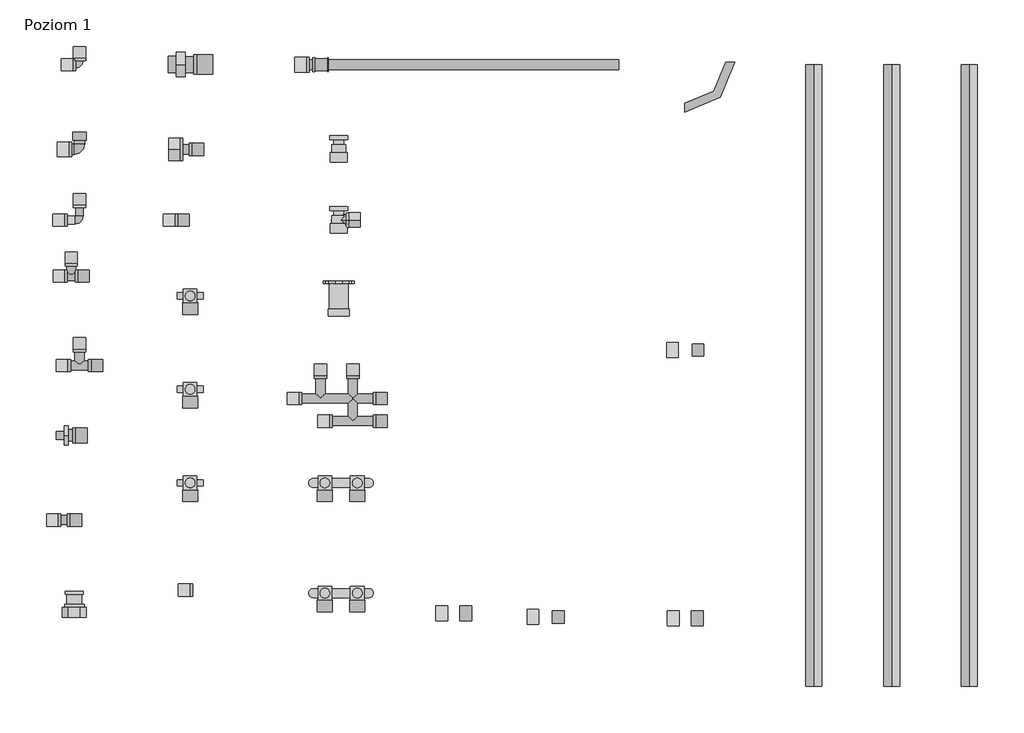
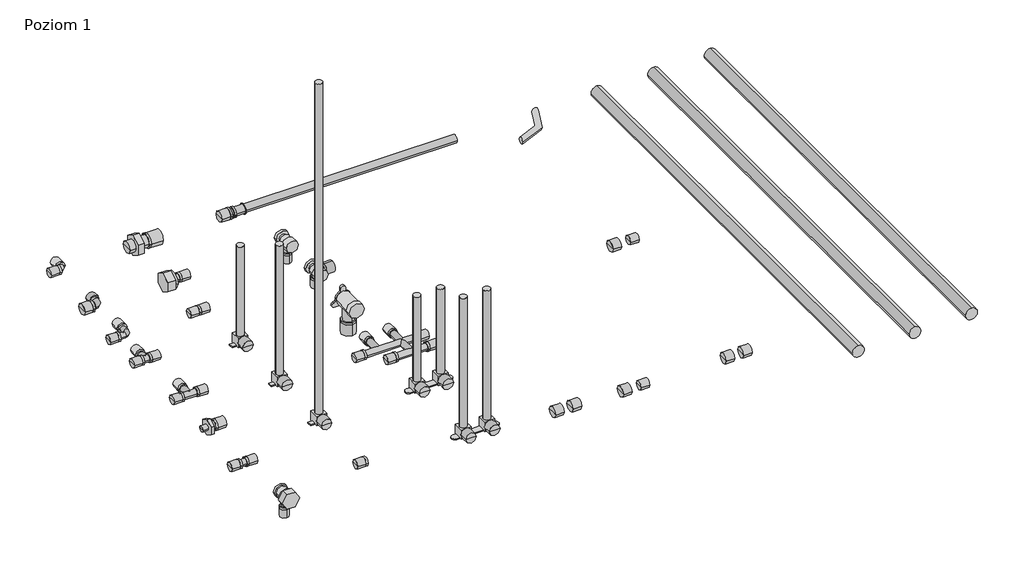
# One storey, incomplete: 69 pipe fittings, 3 pipe segments.
"""IFC4 building model written with IfcOpenShell, lengths in millimetres."""

from ifc_helpers import new_model, si_unit, point, frame, frame_2d, origin, place, context, project, spatial, circle_curve, trimmed, segment, composite_curve, outline, extrude, transform, mapped, element, save
from components import pipe_fitting_30f2cc5d, pipe_fitting_92fd806f, pipe_fitting_f02bf57f, pipe_fitting_e054df29, pipe_fitting_16a170cd, pipe_fitting_e9b668a0, pipe_fitting_484136c4, pipe_fitting_4f28ddf9, pipe_fitting_abb25506, pipe_fitting_5653471c, pipe_fitting_e0515772, pipe_fitting_b1d8f7a5, pipe_fitting_50b3f37e, pipe_fitting_8946a435, pipe_fitting_85a90597, pipe_fitting_3c72cdea, pipe_fitting_ba566464, pipe_fitting_97bea91d, pipe_fitting_ec76dbcf, pipe_fitting_50392070, pipe_fitting_5e96aa70, pipe_fitting_4cc90f57, pipe_fitting_cd0dfacf, pipe_fitting_8a5fa116, pipe_fitting_3549ee6d, pipe_fitting_8a7176bf, pipe_fitting_c6b296b3

model = new_model("IFC4")

# Units and contexts
model_context = context("Model", 3, world=origin())
ifc_project = project(units=[si_unit("LENGTHUNIT", "METRE", prefix="MILLI")], contexts=[model_context])

# Site, building, storey
site = spatial("IfcSite", under=ifc_project)
building = spatial("IfcBuilding", under=site)
storey = spatial("IfcBuildingStorey", under=building, Name="Poziom 1", Elevation=0.0)

# Pipe fittings
placement = place(None, origin())
pipe_fitting_shape = pipe_fitting_30f2cc5d(model_context)
element("IfcPipeFitting", 1, ObjectType="KAN-therm Push rura elastyczna : rura wielowarstwowa PE-Xc/Al/PE-HD Platinum", at=placement, inside=storey, context=model_context, shape_type="MappedRepresentation", body=[
    mapped(pipe_fitting_shape, transform((-9165.9586666, 537.3476058, 0.0), x_axis=(1.0, 0.0, 0.0), y_axis=(0.0, 1.0, 0.0), z_axis=(0.0, 0.0, 1.0))),
])
pipe_fitting_2_shape = pipe_fitting_92fd806f(model_context)
element("IfcPipeFitting", 2, ObjectType="KAN-therm Push trójnik mosężny mijankowy : KAN-therm Push trójnik mosężny mijankowy", at=placement, inside=storey, context=model_context, shape_type="MappedRepresentation", body=[
    mapped(pipe_fitting_2_shape, transform((-9748.2591931, 52.9848725, 0.0), x_axis=(1.0, 0.0, 0.0), y_axis=(0.0, 1.0, 0.0), z_axis=(0.0, 0.0, 1.0))),
])
pipe_fitting_3_shape = pipe_fitting_f02bf57f(model_context)
element("IfcPipeFitting", 3, ObjectType="KAN-therm Push trójnik mosiężny : KAN-therm Push trójnik mosiężny", at=placement, inside=storey, context=model_context, shape_type="MappedRepresentation", body=[
    mapped(pipe_fitting_3_shape, transform((-10183.087042, 276.8922924, 0.0), x_axis=(1.0, 0.0, 0.0), y_axis=(0.0, 1.0, 0.0), z_axis=(0.0, 0.0, 1.0))),
])
pipe_fitting_4_shape = pipe_fitting_e054df29(model_context)
element("IfcPipeFitting", 4, ObjectType="KAN-therm Push trójnik PPSU : KAN-therm Push trójnik PPSU", at=placement, inside=storey, context=model_context, shape_type="MappedRepresentation", body=[
    mapped(pipe_fitting_4_shape, transform((-10170.260069, 138.7966678, 0.0), x_axis=(1.0, 0.0, 0.0), y_axis=(0.0, 1.0, 0.0), z_axis=(0.0, 0.0, 1.0))),
])
pipe_fitting_5_shape = pipe_fitting_16a170cd(model_context)
element("IfcPipeFitting", 5, ObjectType="KAN-therm Push element połaczeniowy do grzejnika : KAN-therm Push element połaczeniowy do grzejnika", at=placement, inside=storey, context=model_context, shape_type="MappedRepresentation", body=[
    mapped(pipe_fitting_5_shape, transform((-9814.6475579, 603.5231041, 0.0), x_axis=(1.0, 0.0, 0.0), y_axis=(0.0, 1.0, 0.0), z_axis=(0.0, 0.0, 1.0))),
])
pipe_fitting_6_shape = pipe_fitting_e9b668a0(model_context)
element("IfcPipeFitting", 6, ObjectType="KAN-therm Push kolano mosiężne z rurą Cu15 ze wspornikiem L=210 : KAN-therm Push kolano mosiężne z rurą Cu15 ze wspornikiem L=210", at=placement, inside=storey, context=model_context, shape_type="MappedRepresentation", body=[
    mapped(pipe_fitting_6_shape, transform((-9999.5567689, 246.2352095, 0.0), x_axis=(1.0, 0.0, 0.0), y_axis=(0.0, 1.0, 0.0), z_axis=(0.0, 0.0, 1.0))),
])
pipe_fitting_7_shape = pipe_fitting_484136c4(model_context)
element("IfcPipeFitting", 7, ObjectType="KAN-therm Push kolano mosiężne z rurą Cu15 ze wspornikiem L=300 : KAN-therm Push kolano mosiężne z rurą Cu15 ze wspornikiem L=300", at=placement, inside=storey, context=model_context, shape_type="MappedRepresentation", body=[
    mapped(pipe_fitting_7_shape, transform((-9999.5567689, 102.0144307, 0.0), x_axis=(1.0, 0.0, 0.0), y_axis=(0.0, 1.0, 0.0), z_axis=(0.0, 0.0, 1.0))),
])
pipe_fitting_8_shape = pipe_fitting_4f28ddf9(model_context)
element("IfcPipeFitting", 8, ObjectType="KAN-therm Push kolano mosiężne z rurą Cu15 ze wspornikiem L=750 : KAN-therm Push kolano mosiężne z rurą Cu15 ze wspornikiem L=750", at=placement, inside=storey, context=model_context, shape_type="MappedRepresentation", body=[
    mapped(pipe_fitting_8_shape, transform((-9999.5567689, -42.4960973, 0.0), x_axis=(1.0, 0.0, 0.0), y_axis=(0.0, 1.0, 0.0), z_axis=(0.0, 0.0, 1.0))),
])
pipe_fitting_9_shape = pipe_fitting_abb25506(model_context)
element("IfcPipeFitting", 9, ObjectType="KAN-therm Push kolano mosiężne zespolone ze wspornikiem L=200 : KAN-therm Push kolano mosiężne zespolone ze wspornikiem L=200", at=placement, inside=storey, context=model_context, shape_type="MappedRepresentation", body=[
    mapped(pipe_fitting_9_shape, transform((-9791.5339065, -42.4960973, 0.0), x_axis=(1.0, 0.0, 0.0), y_axis=(0.0, 1.0, 0.0), z_axis=(0.0, 0.0, 1.0))),
])
pipe_fitting_10_shape = pipe_fitting_5653471c(model_context)
element("IfcPipeFitting", 10, ObjectType="KAN-therm Push kolano mosiężne zespolone ze wspornikiem L=300 : KAN-therm Push kolano mosiężne zespolone ze wspornikiem L=300", at=placement, inside=storey, context=model_context, shape_type="MappedRepresentation", body=[
    mapped(pipe_fitting_10_shape, transform((-9791.5339065, -212.7256633, 0.0), x_axis=(1.0, 0.0, 0.0), y_axis=(0.0, 1.0, 0.0), z_axis=(0.0, 0.0, 1.0))),
])
pipe_fitting_11_shape = pipe_fitting_e0515772(model_context)
element("IfcPipeFitting", 11, ObjectType="KAN-therm Push kolano mosiężne : KAN-therm Push kolano mosiężne", at=placement, inside=storey, context=model_context, shape_type="MappedRepresentation", body=[
    mapped(pipe_fitting_11_shape, transform((-10170.260069, 603.5231041, 0.0), x_axis=(1.0, 0.0, 0.0), y_axis=(0.0, 1.0, 0.0), z_axis=(0.0, 0.0, 1.0))),
])
pipe_fitting_12_shape = pipe_fitting_b1d8f7a5(model_context)
element("IfcPipeFitting", 12, ObjectType="KAN-therm Push kolano PPSU : KAN-therm Push kolano PPSU", at=placement, inside=storey, context=model_context, shape_type="MappedRepresentation", body=[
    mapped(pipe_fitting_12_shape, transform((-10170.260069, 363.3764886, 0.0), x_axis=(1.0, 0.0, 0.0), y_axis=(0.0, 1.0, 0.0), z_axis=(0.0, 0.0, 1.0))),
])
pipe_fitting_13_shape = pipe_fitting_50b3f37e(model_context)
element("IfcPipeFitting", 13, ObjectType="KAN-therm Push korek mosiężny : KAN-therm Push korek mosiężny", at=placement, inside=storey, context=model_context, shape_type="MappedRepresentation", body=[
    mapped(pipe_fitting_13_shape, transform((-9999.5567689, -208.0896617, 0.0), x_axis=(1.0, 0.0, 0.0), y_axis=(0.0, 1.0, 0.0), z_axis=(0.0, 0.0, 1.0))),
])
pipe_fitting_14_shape = pipe_fitting_8946a435(model_context)
element("IfcPipeFitting", 14, ObjectType="KAN-therm Push łącznik mosiężny : KAN-therm Push łącznik mosiężny", at=placement, inside=storey, context=model_context, shape_type="MappedRepresentation", body=[
    mapped(pipe_fitting_14_shape, transform((-10020.6257305, 363.3764886, 0.0), x_axis=(1.0, 0.0, 0.0), y_axis=(0.0, 1.0, 0.0), z_axis=(0.0, 0.0, 1.0))),
])
pipe_fitting_15_shape = pipe_fitting_85a90597(model_context)
element("IfcPipeFitting", 15, ObjectType="KAN-therm Push łącznik PPSU : KAN-therm Push łącznik PPSU", at=placement, inside=storey, context=model_context, shape_type="MappedRepresentation", body=[
    mapped(pipe_fitting_15_shape, transform((-10194.12227, -99.768868, 0.0), x_axis=(1.0, 0.0, 0.0), y_axis=(0.0, 1.0, 0.0), z_axis=(0.0, 0.0, 1.0))),
])
pipe_fitting_16_shape = pipe_fitting_3c72cdea(model_context)
element("IfcPipeFitting", 16, ObjectType="KAN-therm Push podejście do baterii PPSU : KAN-therm Push podejście do baterii PPSU", at=placement, inside=storey, context=model_context, shape_type="MappedRepresentation", body=[
    mapped(pipe_fitting_16_shape, transform((-10178.194971, -224.7552829, 0.0), x_axis=(1.0, 0.0, 0.0), y_axis=(0.0, 1.0, 0.0), z_axis=(0.0, 0.0, 1.0))),
])
pipe_fitting_17_shape = pipe_fitting_ba566464(model_context)
element("IfcPipeFitting", 17, ObjectType="KAN-therm Push podejście mosiężne do baterii : KAN-therm Push podejście mosiężne do baterii", at=placement, inside=storey, context=model_context, shape_type="MappedRepresentation", body=[
    mapped(pipe_fitting_17_shape, transform((-9770.0834965, 472.6642779, 0.0), x_axis=(1.0, 0.0, 0.0), y_axis=(0.0, 1.0, 0.0), z_axis=(0.0, 0.0, 1.0))),
])
pipe_fitting_18_shape = pipe_fitting_97bea91d(model_context)
element("IfcPipeFitting", 18, ObjectType="KAN-therm Push podejście mosiężne kątowe do baterii : KAN-therm Push podejście mosiężne kątowe do baterii", at=placement, inside=storey, context=model_context, shape_type="MappedRepresentation", body=[
    mapped(pipe_fitting_18_shape, transform((-9770.0834965, 363.3764886, 0.0), x_axis=(1.0, 0.0, 0.0), y_axis=(0.0, 1.0, 0.0), z_axis=(0.0, 0.0, 1.0))),
])
pipe_fitting_19_shape = pipe_fitting_ec76dbcf(model_context)
element("IfcPipeFitting", 19, ObjectType="KAN-therm Push podejście mosiężne z uszami do baterii : KAN-therm Push podejście mosiężne z uszami do baterii", at=placement, inside=storey, context=model_context, shape_type="MappedRepresentation", body=[
    mapped(pipe_fitting_19_shape, transform((-9770.0834965, 246.2352095, 0.0), x_axis=(1.0, 0.0, 0.0), y_axis=(0.0, 1.0, 0.0), z_axis=(0.0, 0.0, 1.0))),
])
pipe_fitting_20_shape = pipe_fitting_50392070(model_context)
element("IfcPipeFitting", 20, ObjectType="KAN-therm Push mosiężny pierścień nasuwany : KAN-therm Push mosiężny pierścień nasuwany", at=placement, inside=storey, context=model_context, shape_type="MappedRepresentation", body=[
    mapped(pipe_fitting_20_shape, transform((-10180.260069, 603.5231041, 0.0), x_axis=(-1.0000000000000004, 0.0, 0.0), y_axis=(0.0, -1.0000000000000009, 0.0), z_axis=(0.0, 0.0, 1.0000000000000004))),
])
element("IfcPipeFitting", 21, ObjectType="KAN-therm Push mosiężny pierścień nasuwany : KAN-therm Push mosiężny pierścień nasuwany", at=placement, inside=storey, context=model_context, shape_type="MappedRepresentation", body=[
    mapped(pipe_fitting_20_shape, transform((-10170.260069, 613.5231041, 0.0), x_axis=(0.0, 1.0000000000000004, 0.0), y_axis=(-1.0000000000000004, 0.0, 0.0), z_axis=(0.0, 0.0, 1.0))),
])
element("IfcPipeFitting", 22, ObjectType="KAN-therm Push mosiężny pierścień nasuwany : KAN-therm Push mosiężny pierścień nasuwany", at=placement, inside=storey, context=model_context, shape_type="MappedRepresentation", body=[
    mapped(pipe_fitting_20_shape, transform((-10193.260069, 363.3764886, 0.0), x_axis=(-1.0000000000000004, 0.0, 0.0), y_axis=(0.0, -1.0000000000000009, 0.0), z_axis=(0.0, 0.0, 1.0000000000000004))),
])
element("IfcPipeFitting", 23, ObjectType="KAN-therm Push mosiężny pierścień nasuwany : KAN-therm Push mosiężny pierścień nasuwany", at=placement, inside=storey, context=model_context, shape_type="MappedRepresentation", body=[
    mapped(pipe_fitting_20_shape, transform((-10170.260069, 386.3764886, 0.0), x_axis=(0.0, 1.0000000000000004, 0.0), y_axis=(-1.0000000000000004, 0.0, 0.0), z_axis=(0.0, 0.0, 1.0))),
])
element("IfcPipeFitting", 24, ObjectType="KAN-therm Push mosiężny pierścień nasuwany : KAN-therm Push mosiężny pierścień nasuwany", at=placement, inside=storey, context=model_context, shape_type="MappedRepresentation", body=[
    mapped(pipe_fitting_20_shape, transform((-10173.087042, 276.8922924, 0.0), x_axis=(1.0, 0.0, 0.0), y_axis=(0.0, 1.0, 0.0), z_axis=(0.0, 0.0, 1.0))),
])
element("IfcPipeFitting", 25, ObjectType="KAN-therm Push mosiężny pierścień nasuwany : KAN-therm Push mosiężny pierścień nasuwany", at=placement, inside=storey, context=model_context, shape_type="MappedRepresentation", body=[
    mapped(pipe_fitting_20_shape, transform((-10183.087042, 296.3922924, 0.0), x_axis=(0.0, 1.0000000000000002, 0.0), y_axis=(-1.0000000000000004, 0.0, 0.0), z_axis=(0.0, 0.0, 1.0000000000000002))),
])
element("IfcPipeFitting", 26, ObjectType="KAN-therm Push mosiężny pierścień nasuwany : KAN-therm Push mosiężny pierścień nasuwany", at=placement, inside=storey, context=model_context, shape_type="MappedRepresentation", body=[
    mapped(pipe_fitting_20_shape, transform((-10193.087042, 276.8922924, 0.0), x_axis=(-1.0000000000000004, 0.0, 0.0), y_axis=(0.0, -1.0000000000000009, 0.0), z_axis=(0.0, 0.0, 1.0000000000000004))),
])
element("IfcPipeFitting", 27, ObjectType="KAN-therm Push mosiężny pierścień nasuwany : KAN-therm Push mosiężny pierścień nasuwany", at=placement, inside=storey, context=model_context, shape_type="MappedRepresentation", body=[
    mapped(pipe_fitting_20_shape, transform((-10152.510069, 138.7966678, 0.0), x_axis=(1.0, 0.0, 0.0), y_axis=(0.0, 1.0, 0.0), z_axis=(0.0, 0.0, 1.0))),
])
element("IfcPipeFitting", 28, ObjectType="KAN-therm Push mosiężny pierścień nasuwany : KAN-therm Push mosiężny pierścień nasuwany", at=placement, inside=storey, context=model_context, shape_type="MappedRepresentation", body=[
    mapped(pipe_fitting_20_shape, transform((-10170.260069, 163.7966678, 0.0), x_axis=(0.0, 1.0, 0.0), y_axis=(-1.0, 0.0, 0.0), z_axis=(0.0, 0.0, 1.0))),
])
element("IfcPipeFitting", 29, ObjectType="KAN-therm Push mosiężny pierścień nasuwany : KAN-therm Push mosiężny pierścień nasuwany", at=placement, inside=storey, context=model_context, shape_type="MappedRepresentation", body=[
    mapped(pipe_fitting_20_shape, transform((-10188.010069, 138.7966678, 0.0), x_axis=(-0.9999999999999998, 0.0, 0.0), y_axis=(0.0, -0.9999999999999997, 0.0), z_axis=(0.0, 0.0, 0.9999999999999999))),
])
element("IfcPipeFitting", 30, ObjectType="KAN-therm Push mosiężny pierścień nasuwany : KAN-therm Push mosiężny pierścień nasuwany", at=placement, inside=storey, context=model_context, shape_type="MappedRepresentation", body=[
    mapped(pipe_fitting_20_shape, transform((-10018.6257305, 363.3764886, 0.0), x_axis=(1.0, 0.0, 0.0), y_axis=(0.0, 1.0, 0.0), z_axis=(0.0, 0.0, 1.0))),
])
element("IfcPipeFitting", 31, ObjectType="KAN-therm Push mosiężny pierścień nasuwany : KAN-therm Push mosiężny pierścień nasuwany", at=placement, inside=storey, context=model_context, shape_type="MappedRepresentation", body=[
    mapped(pipe_fitting_20_shape, transform((-10185.12227, -99.768868, 0.0), x_axis=(1.0, 0.0, 0.0), y_axis=(0.0, 1.0, 0.0), z_axis=(0.0, 0.0, 1.0))),
])
element("IfcPipeFitting", 32, ObjectType="KAN-therm Push mosiężny pierścień nasuwany : KAN-therm Push mosiężny pierścień nasuwany", at=placement, inside=storey, context=model_context, shape_type="MappedRepresentation", body=[
    mapped(pipe_fitting_20_shape, transform((-10203.12227, -99.768868, 0.0), x_axis=(-1.0000000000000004, 0.0, 0.0), y_axis=(0.0, -1.0000000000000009, 0.0), z_axis=(0.0, 0.0, 1.0000000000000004))),
])
element("IfcPipeFitting", 33, ObjectType="KAN-therm Push mosiężny pierścień nasuwany : KAN-therm Push mosiężny pierścień nasuwany", at=placement, inside=storey, context=model_context, shape_type="MappedRepresentation", body=[
    mapped(pipe_fitting_20_shape, transform((-9999.5567689, -208.0896617, 0.0), x_axis=(-1.0000000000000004, 0.0, 0.0), y_axis=(0.0, -1.0000000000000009, 0.0), z_axis=(0.0, 0.0, 1.0000000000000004))),
])
element("IfcPipeFitting", 34, ObjectType="KAN-therm Push mosiężny pierścień nasuwany : KAN-therm Push mosiężny pierścień nasuwany", at=placement, inside=storey, context=model_context, shape_type="MappedRepresentation", body=[
    mapped(pipe_fitting_20_shape, transform((-10178.194971, -224.7552829, -30.0), x_axis=(0.0, 0.0, -1.0), y_axis=(0.0, 1.0, 0.0), z_axis=(1.0, 0.0, 0.0))),
])
element("IfcPipeFitting", 35, ObjectType="KAN-therm Push mosiężny pierścień nasuwany : KAN-therm Push mosiężny pierścień nasuwany", at=placement, inside=storey, context=model_context, shape_type="MappedRepresentation", body=[
    mapped(pipe_fitting_20_shape, transform((-9770.0834965, 472.6642779, -26.0), x_axis=(0.0, 0.0, -1.0), y_axis=(0.0, 1.0, 0.0), z_axis=(1.0, 0.0, 0.0))),
])
element("IfcPipeFitting", 36, ObjectType="KAN-therm Push mosiężny pierścień nasuwany : KAN-therm Push mosiężny pierścień nasuwany", at=placement, inside=storey, context=model_context, shape_type="MappedRepresentation", body=[
    mapped(pipe_fitting_20_shape, transform((-9224.7996207, 162.8393269, 0.0), x_axis=(1.0, 0.0, 0.0), y_axis=(0.0, 1.0, 0.0), z_axis=(0.0, 0.0, 1.0))),
])
element("IfcPipeFitting", 37, ObjectType="KAN-therm Push mosiężny pierścień nasuwany : KAN-therm Push mosiężny pierścień nasuwany", at=placement, inside=storey, context=model_context, shape_type="MappedRepresentation", body=[
    mapped(pipe_fitting_20_shape, transform((-9440.4682342, -249.4798614, 0.0), x_axis=(1.0, 0.0, 0.0), y_axis=(0.0, 1.0, 0.0), z_axis=(0.0, 0.0, 1.0))),
])
element("IfcPipeFitting", 38, ObjectType="KAN-therm Push mosiężny pierścień nasuwany : KAN-therm Push mosiężny pierścień nasuwany", at=placement, inside=storey, context=model_context, shape_type="MappedRepresentation", body=[
    mapped(pipe_fitting_20_shape, transform((-9713.2591931, 52.9848725, 0.0), x_axis=(1.0000000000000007, 0.0, 0.0), y_axis=(0.0, 1.000000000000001, 0.0), z_axis=(0.0, 0.0, 1.0000000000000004))),
])
element("IfcPipeFitting", 39, ObjectType="KAN-therm Push mosiężny pierścień nasuwany : KAN-therm Push mosiężny pierścień nasuwany", at=placement, inside=storey, context=model_context, shape_type="MappedRepresentation", body=[
    mapped(pipe_fitting_20_shape, transform((-9713.2591931, 87.9848725, 0.0), x_axis=(1.0, 0.0, 0.0), y_axis=(0.0, 1.0, 0.0), z_axis=(0.0, 0.0, 1.0))),
])
element("IfcPipeFitting", 40, ObjectType="KAN-therm Push mosiężny pierścień nasuwany : KAN-therm Push mosiężny pierścień nasuwany", at=placement, inside=storey, context=model_context, shape_type="MappedRepresentation", body=[
    mapped(pipe_fitting_20_shape, transform((-9748.2591931, 122.9848725, 0.0), x_axis=(0.0, 1.0, 0.0), y_axis=(-1.0, 0.0, 0.0), z_axis=(0.0, 0.0, 1.0))),
])
element("IfcPipeFitting", 41, ObjectType="KAN-therm Push mosiężny pierścień nasuwany : KAN-therm Push mosiężny pierścień nasuwany", at=placement, inside=storey, context=model_context, shape_type="MappedRepresentation", body=[
    mapped(pipe_fitting_20_shape, transform((-9798.2591931, 122.9848725, 0.0), x_axis=(0.0, 1.0, 0.0), y_axis=(-1.0, 0.0, 0.0), z_axis=(0.0, 0.0, 1.0))),
])
element("IfcPipeFitting", 42, ObjectType="KAN-therm Push mosiężny pierścień nasuwany : KAN-therm Push mosiężny pierścień nasuwany", at=placement, inside=storey, context=model_context, shape_type="MappedRepresentation", body=[
    mapped(pipe_fitting_20_shape, transform((-9831.2591931, 87.9848725, 0.0), x_axis=(-0.9999999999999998, 0.0, 0.0), y_axis=(0.0, -0.9999999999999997, 0.0), z_axis=(0.0, 0.0, 0.9999999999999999))),
])
element("IfcPipeFitting", 43, ObjectType="KAN-therm Push mosiężny pierścień nasuwany : KAN-therm Push mosiężny pierścień nasuwany", at=placement, inside=storey, context=model_context, shape_type="MappedRepresentation", body=[
    mapped(pipe_fitting_20_shape, transform((-9784.2591931, 52.9848725, 0.0), x_axis=(-1.0, 0.0, 0.0), y_axis=(0.0, -1.0, 0.0), z_axis=(0.0, 0.0, 1.0))),
])
element("IfcPipeFitting", 44, ObjectType="KAN-therm Push mosiężny pierścień nasuwany : KAN-therm Push mosiężny pierścień nasuwany", at=placement, inside=storey, context=model_context, shape_type="MappedRepresentation", body=[
    mapped(pipe_fitting_20_shape, transform((-9996.6257305, 472.6642779, 0.0), x_axis=(1.0, 0.0, 0.0), y_axis=(0.0, 1.0, 0.0), z_axis=(0.0, 0.0, 1.0))),
])
pipe_fitting_21_shape = pipe_fitting_5e96aa70(model_context)
element("IfcPipeFitting", 45, ObjectType="KAN-therm Push mosiężny pierścień nasuwany : KAN-therm Push mosiężny pierścień nasuwany", at=placement, inside=storey, context=model_context, shape_type="MappedRepresentation", body=[
    mapped(pipe_fitting_21_shape, transform((-9819.7475579, 603.5231041, 0.0), x_axis=(-1.0000000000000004, 0.0, 0.0), y_axis=(0.0, -1.0000000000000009, 0.0), z_axis=(0.0, 0.0, 1.0000000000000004))),
])
element("IfcPipeFitting", 46, ObjectType="KAN-therm Push mosiężny pierścień nasuwany : KAN-therm Push mosiężny pierścień nasuwany", at=placement, inside=storey, context=model_context, shape_type="MappedRepresentation", body=[
    mapped(pipe_fitting_21_shape, transform((-9999.5567689, 235.7352095, 0.0), x_axis=(0.0, -1.0, 0.0), y_axis=(1.0, 0.0, 0.0), z_axis=(0.0, 0.0, 1.0))),
])
element("IfcPipeFitting", 47, ObjectType="KAN-therm Push mosiężny pierścień nasuwany : KAN-therm Push mosiężny pierścień nasuwany", at=placement, inside=storey, context=model_context, shape_type="MappedRepresentation", body=[
    mapped(pipe_fitting_21_shape, transform((-9999.5567689, 91.5144307, 0.0), x_axis=(0.0, -1.0, 0.0), y_axis=(1.0, 0.0, 0.0), z_axis=(0.0, 0.0, 1.0))),
])
element("IfcPipeFitting", 48, ObjectType="KAN-therm Push mosiężny pierścień nasuwany : KAN-therm Push mosiężny pierścień nasuwany", at=placement, inside=storey, context=model_context, shape_type="MappedRepresentation", body=[
    mapped(pipe_fitting_21_shape, transform((-9999.5567689, -52.9960973, 0.0), x_axis=(0.0, -1.0, 0.0), y_axis=(1.0, 0.0, 0.0), z_axis=(0.0, 0.0, 1.0))),
])
element("IfcPipeFitting", 49, ObjectType="KAN-therm Push mosiężny pierścień nasuwany : KAN-therm Push mosiężny pierścień nasuwany", at=placement, inside=storey, context=model_context, shape_type="MappedRepresentation", body=[
    mapped(pipe_fitting_21_shape, transform((-9791.5339065, -52.9960973, 0.0), x_axis=(0.0, -1.0000000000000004, 0.0), y_axis=(1.0000000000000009, 0.0, 0.0), z_axis=(0.0, 0.0, 1.0000000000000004))),
])
element("IfcPipeFitting", 50, ObjectType="KAN-therm Push mosiężny pierścień nasuwany : KAN-therm Push mosiężny pierścień nasuwany", at=placement, inside=storey, context=model_context, shape_type="MappedRepresentation", body=[
    mapped(pipe_fitting_21_shape, transform((-9741.5339065, -52.9960973, 0.0), x_axis=(0.0, -1.0, 0.0), y_axis=(1.0, 0.0, 0.0), z_axis=(0.0, 0.0, 1.0))),
])
element("IfcPipeFitting", 51, ObjectType="KAN-therm Push mosiężny pierścień nasuwany : KAN-therm Push mosiężny pierścień nasuwany", at=placement, inside=storey, context=model_context, shape_type="MappedRepresentation", body=[
    mapped(pipe_fitting_21_shape, transform((-9791.5339065, -223.2256633, 0.0), x_axis=(0.0, -1.0000000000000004, 0.0), y_axis=(1.0000000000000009, 0.0, 0.0), z_axis=(0.0, 0.0, 1.0000000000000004))),
])
element("IfcPipeFitting", 52, ObjectType="KAN-therm Push mosiężny pierścień nasuwany : KAN-therm Push mosiężny pierścień nasuwany", at=placement, inside=storey, context=model_context, shape_type="MappedRepresentation", body=[
    mapped(pipe_fitting_21_shape, transform((-9741.5339065, -223.2256633, 0.0), x_axis=(0.0, -1.0, 0.0), y_axis=(1.0, 0.0, 0.0), z_axis=(0.0, 0.0, 1.0))),
])
element("IfcPipeFitting", 53, ObjectType="KAN-therm Push mosiężny pierścień nasuwany : KAN-therm Push mosiężny pierścień nasuwany", at=placement, inside=storey, context=model_context, shape_type="MappedRepresentation", body=[
    mapped(pipe_fitting_21_shape, transform((-9770.0834965, 363.3764886, -15.5), x_axis=(0.0, 0.0, -1.0), y_axis=(0.0, 1.0, 0.0), z_axis=(1.0, 0.0, 0.0))),
])
element("IfcPipeFitting", 54, ObjectType="KAN-therm Push mosiężny pierścień nasuwany : KAN-therm Push mosiężny pierścień nasuwany", at=placement, inside=storey, context=model_context, shape_type="MappedRepresentation", body=[
    mapped(pipe_fitting_21_shape, transform((-9754.5834965, 363.3764886, 0.0), x_axis=(1.0, 0.0, 0.0), y_axis=(0.0, 0.0, 1.0), z_axis=(0.0, -1.0, 0.0))),
])
element("IfcPipeFitting", 55, ObjectType="KAN-therm Push mosiężny pierścień nasuwany : KAN-therm Push mosiężny pierścień nasuwany", at=placement, inside=storey, context=model_context, shape_type="MappedRepresentation", body=[
    mapped(pipe_fitting_21_shape, transform((-9245.7996207, 162.8393269, 0.0), x_axis=(-1.0000000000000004, 0.0, 0.0), y_axis=(0.0, -1.0000000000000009, 0.0), z_axis=(0.0, 0.0, 1.0000000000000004))),
])
element("IfcPipeFitting", 56, ObjectType="KAN-therm Push mosiężny pierścień nasuwany : KAN-therm Push mosiężny pierścień nasuwany", at=placement, inside=storey, context=model_context, shape_type="MappedRepresentation", body=[
    mapped(pipe_fitting_21_shape, transform((-9461.4682342, -249.4798614, 0.0), x_axis=(-1.0000000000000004, 0.0, 0.0), y_axis=(0.0, -1.0000000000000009, 0.0), z_axis=(0.0, 0.0, 1.0000000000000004))),
])
element("IfcPipeFitting", 57, ObjectType="KAN-therm Push mosiężny pierścień nasuwany : KAN-therm Push mosiężny pierścień nasuwany", at=placement, inside=storey, context=model_context, shape_type="MappedRepresentation", body=[
    mapped(pipe_fitting_21_shape, transform((-9225.7996207, -251.8224364, 0.0), x_axis=(1.0, 0.0, 0.0), y_axis=(0.0, 1.0, 0.0), z_axis=(0.0, 0.0, 1.0))),
])
element("IfcPipeFitting", 58, ObjectType="KAN-therm Push mosiężny pierścień nasuwany : KAN-therm Push mosiężny pierścień nasuwany", at=placement, inside=storey, context=model_context, shape_type="MappedRepresentation", body=[
    mapped(pipe_fitting_21_shape, transform((-9244.7996207, -251.8224364, 0.0), x_axis=(-1.0000000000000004, 0.0, 0.0), y_axis=(0.0, -1.0000000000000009, 0.0), z_axis=(0.0, 0.0, 1.0000000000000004))),
])
element("IfcPipeFitting", 59, ObjectType="KAN-therm Push mosiężny pierścień nasuwany : KAN-therm Push mosiężny pierścień nasuwany", at=placement, inside=storey, context=model_context, shape_type="MappedRepresentation", body=[
    mapped(pipe_fitting_21_shape, transform((-9583.1578698, -243.9857973, 0.0), x_axis=(1.0, 0.0, 0.0), y_axis=(0.0, 1.0, 0.0), z_axis=(0.0, 0.0, 1.0))),
])
element("IfcPipeFitting", 60, ObjectType="KAN-therm Push mosiężny pierścień nasuwany : KAN-therm Push mosiężny pierścień nasuwany", at=placement, inside=storey, context=model_context, shape_type="MappedRepresentation", body=[
    mapped(pipe_fitting_21_shape, transform((-9602.1578698, -243.9857973, 0.0), x_axis=(-1.0000000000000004, 0.0, 0.0), y_axis=(0.0, -1.0000000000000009, 0.0), z_axis=(0.0, 0.0, 1.0000000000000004))),
])
element("IfcPipeFitting", 61, ObjectType="KAN-therm Push mosiężny pierścień nasuwany : KAN-therm Push mosiężny pierścień nasuwany", at=placement, inside=storey, context=model_context, shape_type="MappedRepresentation", body=[
    mapped(pipe_fitting_21_shape, transform((-10176.62227, 31.0157392, 0.0), x_axis=(1.0, 0.0, 0.0), y_axis=(0.0, 1.0, 0.0), z_axis=(0.0, 0.0, 1.0))),
])
element("IfcPipeFitting", 62, ObjectType="KAN-therm Push mosiężny pierścień nasuwany : KAN-therm Push mosiężny pierścień nasuwany", at=placement, inside=storey, context=model_context, shape_type="MappedRepresentation", body=[
    mapped(pipe_fitting_21_shape, transform((-10186.260069, 472.6642779, 0.0), x_axis=(-1.0000000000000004, 0.0, 0.0), y_axis=(0.0, -1.0000000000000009, 0.0), z_axis=(0.0, 0.0, 1.0000000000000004))),
])
pipe_fitting_22_shape = pipe_fitting_4cc90f57(model_context)
element("IfcPipeFitting", 63, ObjectType="KAN-therm Push mosiężny pierścień nasuwany : KAN-therm Push mosiężny pierścień nasuwany", at=placement, inside=storey, context=model_context, shape_type="MappedRepresentation", body=[
    mapped(pipe_fitting_22_shape, transform((-9770.0834965, 246.2352095, -40.0), x_axis=(0.0, 0.0, -1.0), y_axis=(0.0, 1.0, 0.0), z_axis=(1.0, 0.0, 0.0))),
])
element("IfcPipeFitting", 64, ObjectType="KAN-therm Push mosiężny pierścień nasuwany : KAN-therm Push mosiężny pierścień nasuwany", at=placement, inside=storey, context=model_context, shape_type="MappedRepresentation", body=[
    mapped(pipe_fitting_22_shape, transform((-9989.6257305, 603.5231041, 0.0), x_axis=(1.0, 0.0, 0.0), y_axis=(0.0, 1.0, 0.0), z_axis=(0.0, 0.0, 1.0))),
])
pipe_fitting_23_shape = pipe_fitting_cd0dfacf(model_context)
element("IfcPipeFitting", 65, ObjectType="KAN-therm Push mosiężny pierścień nasuwany : KAN-therm Push mosiężny pierścień nasuwany", at=placement, inside=storey, context=model_context, shape_type="MappedRepresentation", body=[
    mapped(pipe_fitting_23_shape, transform((-10022.6257305, 363.3764886, 0.0), x_axis=(-1.0, 0.0, 0.0), y_axis=(0.0, -1.0, 0.0), z_axis=(0.0, 0.0, 1.0))),
])
pipe_fitting_24_shape = pipe_fitting_8a5fa116(model_context)
element("IfcPipeFitting", 66, ObjectType="KAN-therm Push złączka mosiężna z gz : 1\"", at=placement, inside=storey, context=model_context, shape_type="MappedRepresentation", body=[
    mapped(pipe_fitting_24_shape, transform((-10020.6257305, 603.5231041, 0.0), x_axis=(1.0, 0.0, 0.0), y_axis=(0.0, 1.0, 0.0), z_axis=(0.0, 0.0, 1.0))),
])
pipe_fitting_25_shape = pipe_fitting_3549ee6d(model_context)
element("IfcPipeFitting", 67, ObjectType="KAN-therm Push złączka PPSU z gw : 1/2\"", at=placement, inside=storey, context=model_context, shape_type="MappedRepresentation", body=[
    mapped(pipe_fitting_25_shape, transform((-10020.6257305, 472.6642779, 0.0), x_axis=(1.0, 0.0, 0.0), y_axis=(0.0, 1.0, 0.0), z_axis=(0.0, 0.0, 1.0))),
])
pipe_fitting_26_shape = pipe_fitting_8a7176bf(model_context)
element("IfcPipeFitting", 68, ObjectType="KAN-therm Push złączka mosiężna z gw : 1/2\"", at=placement, inside=storey, context=model_context, shape_type="MappedRepresentation", body=[
    mapped(pipe_fitting_26_shape, transform((-10194.12227, 31.0157392, 0.0), x_axis=(1.0, 0.0, 0.0), y_axis=(0.0, 1.0, 0.0), z_axis=(0.0, 0.0, 1.0))),
])
pipe_fitting_27_shape = pipe_fitting_c6b296b3(model_context)
element("IfcPipeFitting", 69, ObjectType="KAN-therm Push kolano mosiężne gz : 1/2\"", at=placement, inside=storey, context=model_context, shape_type="MappedRepresentation", body=[
    mapped(pipe_fitting_27_shape, transform((-10170.260069, 472.6642779, 0.0), x_axis=(1.0, 0.0, 0.0), y_axis=(0.0, 1.0, 0.0), z_axis=(0.0, 0.0, 1.0))),
])

# Pipe segments
element("IfcPipeSegment", 70, ObjectType="rura wielowarstwowa PE-Xc/Al/PE-HD Platinum", at=placement, inside=storey, context=model_context, shape_type="SweptSolid", body=[
    extrude(outline(composite_curve([segment(trimmed(circle_curve(frame_2d((0.0, -9036.8395252)), 12.5), [point((0.0, -9049.3395252))], [point((-12.5, -9036.8395252))], False, "CARTESIAN"), True, "CONTINUOUS"), segment(trimmed(circle_curve(frame_2d((0.0, -9036.8395252)), 12.5), [point((-12.5, -9036.8395252))], [point((0.0, -9024.3395252))], False, "CARTESIAN"), True, "CONTINUOUS"), segment(trimmed(circle_curve(frame_2d((0.0, -9036.8395252)), 12.5), [point((0.0, -9024.3395252))], [point((12.5, -9036.8395252))], False, "CARTESIAN"), True, "CONTINUOUS"), segment(trimmed(circle_curve(frame_2d((0.0, -9036.8395252)), 12.5), [point((12.5, -9036.8395252))], [point((0.0, -9049.3395252))], False, "CARTESIAN"), True, "CONTINUOUS")], self_intersect=False)), frame((0.0, -356.4768959, 0.0), z_axis=(0.0, 1.0, 0.0), x_axis=(0.0, 0.0, 1.0)), (0.0, 0.0, 1.0), 960.0),
])
element("IfcPipeSegment", 71, ObjectType="rura PE-Xc z osłoną antydyfuzyjną wg DIN 4726", at=placement, inside=storey, context=model_context, shape_type="SweptSolid", body=[
    extrude(outline(composite_curve([segment(trimmed(circle_curve(frame_2d((0.0, -8916.8395252)), 12.5), [point((0.0, -8929.3395252))], [point((-12.5, -8916.8395252))], False, "CARTESIAN"), True, "CONTINUOUS"), segment(trimmed(circle_curve(frame_2d((0.0, -8916.8395252)), 12.5), [point((-12.5, -8916.8395252))], [point((0.0, -8904.3395252))], False, "CARTESIAN"), True, "CONTINUOUS"), segment(trimmed(circle_curve(frame_2d((0.0, -8916.8395252)), 12.5), [point((0.0, -8904.3395252))], [point((12.5, -8916.8395252))], False, "CARTESIAN"), True, "CONTINUOUS"), segment(trimmed(circle_curve(frame_2d((0.0, -8916.8395252)), 12.5), [point((12.5, -8916.8395252))], [point((0.0, -8929.3395252))], False, "CARTESIAN"), True, "CONTINUOUS")], self_intersect=False)), frame((0.0, -356.4768959, 0.0), z_axis=(0.0, 1.0, 0.0), x_axis=(0.0, 0.0, 1.0)), (0.0, 0.0, 1.0), 960.0),
])
element("IfcPipeSegment", 72, ObjectType="rura PE-RT z osłoną antydyfuzyjną wg DIN 4726", at=placement, inside=storey, context=model_context, shape_type="SweptSolid", body=[
    extrude(outline(composite_curve([segment(trimmed(circle_curve(frame_2d((0.0, -8796.8395252)), 12.5), [point((0.0, -8809.3395252))], [point((-12.5, -8796.8395252))], False, "CARTESIAN"), True, "CONTINUOUS"), segment(trimmed(circle_curve(frame_2d((0.0, -8796.8395252)), 12.5), [point((-12.5, -8796.8395252))], [point((0.0, -8784.3395252))], False, "CARTESIAN"), True, "CONTINUOUS"), segment(trimmed(circle_curve(frame_2d((0.0, -8796.8395252)), 12.5), [point((0.0, -8784.3395252))], [point((12.5, -8796.8395252))], False, "CARTESIAN"), True, "CONTINUOUS"), segment(trimmed(circle_curve(frame_2d((0.0, -8796.8395252)), 12.5), [point((12.5, -8796.8395252))], [point((0.0, -8809.3395252))], False, "CARTESIAN"), True, "CONTINUOUS")], self_intersect=False)), frame((0.0, -356.4768959, 0.0), z_axis=(0.0, 1.0, 0.0), x_axis=(0.0, 0.0, 1.0)), (0.0, 0.0, 1.0), 960.0),
])

save(model, "model.ifc")
